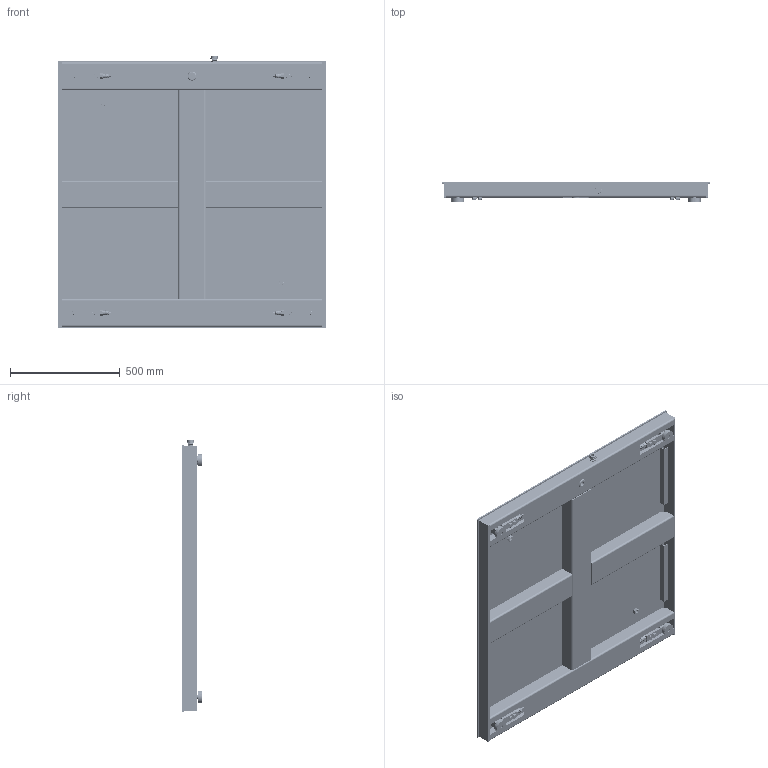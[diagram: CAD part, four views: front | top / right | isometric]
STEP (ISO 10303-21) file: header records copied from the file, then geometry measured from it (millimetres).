
FILE_DESCRIPTION (( 'STEP AP214' ), '1' );
FILE_NAME ('HIFS-4848 Series.STEP', '2019-10-17T15:11:03', ( '' ), ( '' ), 'SwSTEP 2.0', 'SolidWorks 2017', '' );
FILE_SCHEMA (( 'AUTOMOTIVE_DESIGN' ));
Length unit declared in the file: inch
Products named in the file (59): Cable Adapter; 2814-0095-0; HI 6011 ASSEMBLY; ORING; 0529-0024-01-0; Hex Bolt - 1_2 - 20_2.25"; flat washer type a selected narrow_ai_Selected Narrow FW 0.156; 0535-0575-XX-0 PWA; 100-93488; Gland; 900-100111; smkds_1-9-3.5; 91800A236_91800A236; 100-80533; 2818-0128-0_91287A010; HI SBHF14-5K; 0508-0918-003_COVER_Default<As Machined>; pan cross head_ai_CR-PHMS 0.138-32x0.25x0.25-C; 0530-0852-01-0; HP-00003; smkds_1-7-3.5; Mini Cable; 0508-0918-001_ENCLOSURE ASSY; 0534-0575-01-0 PWB; 0530-0825-01-0; HP-00002; 900-100128; SS TOP; 0508-0918-001_ENCLOSURE; 100-80340_CS; HIFS-4848 Series; 800-000166; Adapter Nut; 2817-0188; HM-CS-5K_CS; HF-Foot; blind standoff_pmm_PEM BSO4-M3-6; 900-100115; 1_8 x 1 x 1 Angle_12.25"<As Machined>; 100-80535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
Assembly tree (112 placements, depth 6):
  HIFS-4848 Series
    100-93488
    100-80340_CS  x2
    100-82172_CS Smooth
    Socket Countersunk Head Cap Screw - 1_4 - 20_0.75" CS  x2
    Hex Nut - 5_8 - 11_CS  x2
    HP-00001
    HP-00002
    100-80533
    100-80541  x2
    100-80535  x2
    1_8 x 1 x 1 Angle_12.25"<As Machined>  x4
    900-100111
    800-000166
    900-100115
    900-100128  x6
    0530-0825-01-0  x3
    HM-CS-5K_CS  x4
      900-600004_CS
      HI SBHF14-5K
        Mini Cable Adapter
          Mini Cable
          Gland
          Cable Adapter Nut
            Adapter Nut
          Cable Adapter
        HI SBHF14-5K
      Hex Bolt - 1_2 - 20_2.25"
      HF-Foot
        Pin 4-6362E-1 Rubber Foot
        93625A150_93625A150
        91800A236_91800A236
        ORING
        SS TOP
        Rubber 3-6427
      HP-00003
    HI 6011 ASSEMBLY
      0508-0918-01_ENCLOSURE ASSY
        0508-0918-001_ENCLOSURE ASSY
          0508-0918-001_ENCLOSURE
          blind standoff_pmm_PEM BSO4-M3-6  x8
          PEM BSO4-632-10  x4
        0508-0918-003_COVER_Default<As Machined>
        0508-0918-002_PLATE
      0524-0038-01-0
      0535-0575-XX-0 PWA
        0534-0575-01-0 PWB
        Phoenix_1751141
          smkds_1-7-3.5
        smkds_1-7-3.5  x3
        Phoenix_1751167
          smkds_1-9-3.5
      2817-0188  x4
        flat washer type a selected narrow_ai_Selected Narrow FW 0.156
        pan cross head_ai_CR-PHMS 0.138-32x0.25x0.25-C
      0529-0024-01-0  x5
      6007-0097-0  x5
      2814-0095-0  x5
      2818-0128-0_91287A010  x8
      0530-0852-01-0
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Bounding box: 1219.2 x 92.09 x 1241.42 mm (x, y, z)
Volume: 18039961.5 mm3; surface area: 6314791.1 mm2
Topology: 658 solids, 662 shells, 20054 faces, 51711 edges, 33791 vertices
Faces by surface type: plane 8755, bspline 6629, cylinder 2741, cone 1773, torus 148, sphere 8
Full cylindrical faces by diameter (mm): 10 x4
Entity records: 703504 total; most frequent: CARTESIAN_POINT 223542, ORIENTED_EDGE 74806, DIRECTION 43874, EDGE_CURVE 37403, VERTEX_POINT 24679, VECTOR 22760, LINE 22760, EDGE_LOOP 15272
